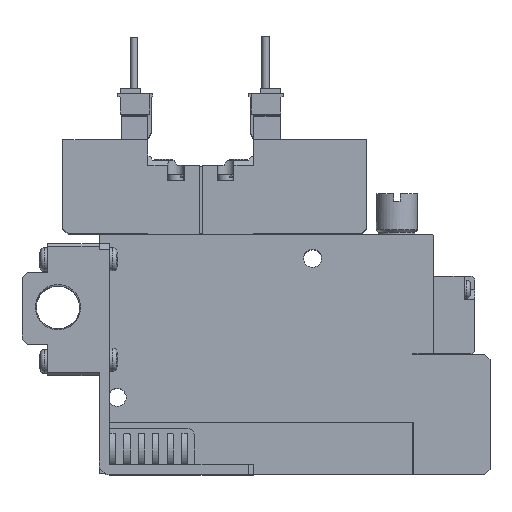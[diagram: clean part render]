
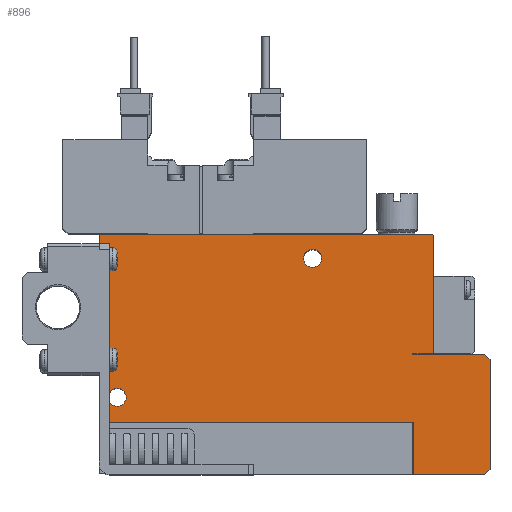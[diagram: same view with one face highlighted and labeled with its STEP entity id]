
A CAD part, top view. The second image highlights one B-rep face of the part: STEP entity #896.
In plain terms, the highlighted planar face has unit normal (0, 0, 1).
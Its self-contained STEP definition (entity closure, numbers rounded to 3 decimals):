
#896=ADVANCED_FACE('',(#2028,#2029,#2030),#2031,.F.);
#2028=FACE_OUTER_BOUND('',#3596,.T.);
#2029=FACE_BOUND('',#3597,.T.);
#2030=FACE_BOUND('',#3598,.T.);
#2031=PLANE('',#3599);
#3596=EDGE_LOOP('',(#7526,#7527,#7528,#7529,#7530,#7531,#7532,#7533,#7534,#7535,#7536,#7537,#7538,#7539));
#3597=EDGE_LOOP('',(#7540));
#3598=EDGE_LOOP('',(#7541));
#3599=AXIS2_PLACEMENT_3D('',#7542,#7543,#7544);
#7526=ORIENTED_EDGE('',*,*,#10755,.T.);
#7527=ORIENTED_EDGE('',*,*,#10799,.F.);
#7528=ORIENTED_EDGE('',*,*,#10657,.F.);
#7529=ORIENTED_EDGE('',*,*,#10451,.T.);
#7530=ORIENTED_EDGE('',*,*,#10646,.T.);
#7531=ORIENTED_EDGE('',*,*,#10605,.T.);
#7532=ORIENTED_EDGE('',*,*,#10503,.T.);
#7533=ORIENTED_EDGE('',*,*,#10612,.T.);
#7534=ORIENTED_EDGE('',*,*,#10609,.T.);
#7535=ORIENTED_EDGE('',*,*,#10615,.T.);
#7536=ORIENTED_EDGE('',*,*,#10822,.T.);
#7537=ORIENTED_EDGE('',*,*,#10806,.T.);
#7538=ORIENTED_EDGE('',*,*,#10668,.T.);
#7539=ORIENTED_EDGE('',*,*,#10573,.T.);
#7540=ORIENTED_EDGE('',*,*,#10667,.F.);
#7541=ORIENTED_EDGE('',*,*,#10644,.F.);
#7542=CARTESIAN_POINT('',(0.0,0.0,5.0));
#7543=DIRECTION('',(0.0,0.0,-1.0));
#7544=DIRECTION('',(0.0,-1.0,0.0));
#10451=EDGE_CURVE('',#12603,#12607,#12609,.T.);
#10503=EDGE_CURVE('',#12709,#12707,#12710,.T.);
#10573=EDGE_CURVE('',#12835,#12833,#12836,.T.);
#10605=EDGE_CURVE('',#12894,#12709,#12895,.T.);
#10609=EDGE_CURVE('',#12902,#12900,#12903,.T.);
#10612=EDGE_CURVE('',#12707,#12902,#12906,.T.);
#10615=EDGE_CURVE('',#12900,#12909,#12911,.T.);
#10644=EDGE_CURVE('',#12960,#12960,#12961,.T.);
#10646=EDGE_CURVE('',#12607,#12894,#12963,.T.);
#10657=EDGE_CURVE('',#12603,#12981,#12982,.T.);
#10667=EDGE_CURVE('',#12998,#12998,#12999,.T.);
#10668=EDGE_CURVE('',#13000,#12835,#13001,.T.);
#10755=EDGE_CURVE('',#12833,#13140,#13142,.T.);
#10799=EDGE_CURVE('',#12981,#13140,#13206,.T.);
#10806=EDGE_CURVE('',#13216,#13000,#13217,.T.);
#10822=EDGE_CURVE('',#12909,#13216,#13237,.T.);
#12603=VERTEX_POINT('',#16138);
#12607=VERTEX_POINT('',#16144);
#12609=LINE('',#16147,#16148);
#12707=VERTEX_POINT('',#16341);
#12709=VERTEX_POINT('',#16344);
#12710=LINE('',#16345,#16346);
#12833=VERTEX_POINT('',#16587);
#12835=VERTEX_POINT('',#16590);
#12836=LINE('',#16591,#16592);
#12894=VERTEX_POINT('',#16706);
#12895=LINE('',#16707,#16708);
#12900=VERTEX_POINT('',#16715);
#12902=VERTEX_POINT('',#16718);
#12903=LINE('',#16719,#16720);
#12906=LINE('',#16725,#16726);
#12909=VERTEX_POINT('',#16730);
#12911=LINE('',#16733,#16734);
#12960=VERTEX_POINT('',#16812);
#12961=CIRCLE('',#16813,1.75);
#12963=LINE('',#16816,#16817);
#12981=VERTEX_POINT('',#16844);
#12982=LINE('',#16845,#16846);
#12998=VERTEX_POINT('',#16868);
#12999=CIRCLE('',#16869,1.75);
#13000=VERTEX_POINT('',#16870);
#13001=LINE('',#16871,#16872);
#13140=VERTEX_POINT('',#17097);
#13142=LINE('',#17100,#17101);
#13206=LINE('',#17209,#17210);
#13216=VERTEX_POINT('',#17226);
#13217=LINE('',#17227,#17228);
#13237=LINE('',#17259,#17260);
#16138=CARTESIAN_POINT('',(61.1,0.0,5.0));
#16144=CARTESIAN_POINT('',(75.0,0.0,5.0));
#16147=CARTESIAN_POINT('',(0.0,0.0,5.0));
#16148=VECTOR('',#20540,1.0);
#16341=CARTESIAN_POINT('',(75.0,23.25,5.0));
#16344=CARTESIAN_POINT('',(76.0,22.25,5.0));
#16345=CARTESIAN_POINT('',(76.0,22.25,5.0));
#16346=VECTOR('',#20613,1.0);
#16587=CARTESIAN_POINT('',(0.0,46.4,5.0));
#16590=CARTESIAN_POINT('',(0.2,46.6,5.0));
#16591=CARTESIAN_POINT('',(0.2,46.6,5.0));
#16592=VECTOR('',#20711,1.0);
#16706=CARTESIAN_POINT('',(76.0,1.0,5.0));
#16707=CARTESIAN_POINT('',(76.0,1.0,5.0));
#16708=VECTOR('',#20757,1.0);
#16715=CARTESIAN_POINT('',(61.0,23.5,5.0));
#16718=CARTESIAN_POINT('',(61.0,23.25,5.0));
#16719=CARTESIAN_POINT('',(61.0,23.25,5.0));
#16720=VECTOR('',#20761,1.0);
#16725=CARTESIAN_POINT('',(75.0,23.25,5.0));
#16726=VECTOR('',#20764,1.0);
#16730=CARTESIAN_POINT('',(65.0,23.5,5.0));
#16733=CARTESIAN_POINT('',(61.0,23.5,5.0));
#16734=VECTOR('',#20767,1.0);
#16812=CARTESIAN_POINT('',(43.25,42.0,5.0));
#16813=AXIS2_PLACEMENT_3D('',#20811,#20812,#20813);
#16816=CARTESIAN_POINT('',(75.0,0.0,5.0));
#16817=VECTOR('',#20815,1.0);
#16844=CARTESIAN_POINT('',(61.1,10.1,5.0));
#16845=CARTESIAN_POINT('',(61.1,0.0,5.0));
#16846=VECTOR('',#20828,1.0);
#16868=CARTESIAN_POINT('',(5.25,15.0,5.0));
#16869=AXIS2_PLACEMENT_3D('',#20844,#20845,#20846);
#16870=CARTESIAN_POINT('',(64.8,46.6,5.0));
#16871=CARTESIAN_POINT('',(64.8,46.6,5.0));
#16872=VECTOR('',#20847,1.0);
#17097=CARTESIAN_POINT('',(0.0,10.1,5.0));
#17100=CARTESIAN_POINT('',(0.0,46.4,5.0));
#17101=VECTOR('',#20949,1.0);
#17209=CARTESIAN_POINT('',(61.1,10.1,5.0));
#17210=VECTOR('',#21006,1.0);
#17226=CARTESIAN_POINT('',(65.0,46.4,5.0));
#17227=CARTESIAN_POINT('',(65.0,46.4,5.0));
#17228=VECTOR('',#21013,1.0);
#17259=CARTESIAN_POINT('',(65.0,23.5,5.0));
#17260=VECTOR('',#21037,1.0);
#20540=DIRECTION('',(1.0,0.0,0.0));
#20613=DIRECTION('',(-0.707,0.707,0.0));
#20711=DIRECTION('',(-0.707,-0.707,0.0));
#20757=DIRECTION('',(0.0,1.0,0.0));
#20761=DIRECTION('',(0.0,1.0,0.0));
#20764=DIRECTION('',(-1.0,0.0,0.0));
#20767=DIRECTION('',(1.0,0.,0.0));
#20811=CARTESIAN_POINT('',(41.5,42.0,5.0));
#20812=DIRECTION('',(0.0,0.0,1.0));
#20813=DIRECTION('',(1.0,0.0,0.0));
#20815=DIRECTION('',(0.707,0.707,0.0));
#20828=DIRECTION('',(0.0,1.0,0.0));
#20844=CARTESIAN_POINT('',(3.5,15.0,5.0));
#20845=DIRECTION('',(0.0,0.0,1.0));
#20846=DIRECTION('',(1.0,0.0,0.0));
#20847=DIRECTION('',(-1.0,0.0,0.0));
#20949=DIRECTION('',(0.0,-1.0,0.0));
#21006=DIRECTION('',(-1.0,0.0,0.0));
#21013=DIRECTION('',(-0.707,0.707,0.0));
#21037=DIRECTION('',(0.0,1.0,0.0));
